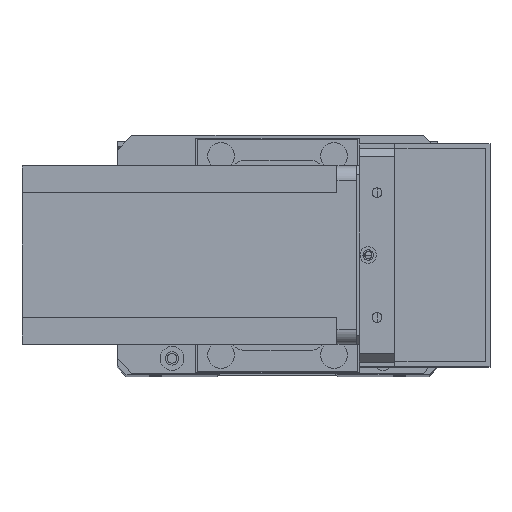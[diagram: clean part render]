
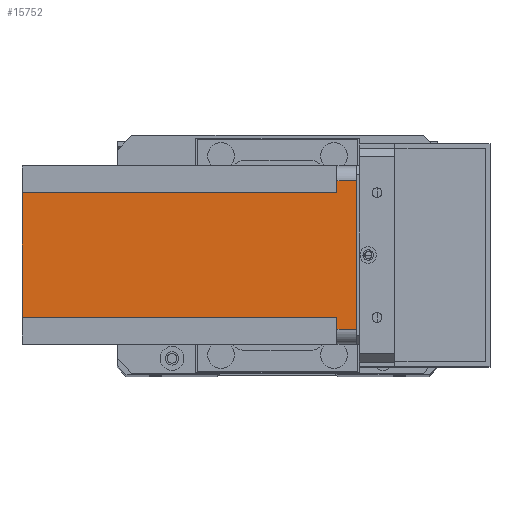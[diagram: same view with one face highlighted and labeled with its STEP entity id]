
A CAD part, top view. The second image highlights one B-rep face of the part: STEP entity #15752.
In plain terms, the highlighted planar face has unit normal (0, 0, 1) as drawn and (1, 0, 0) by its records, which use the part's own axes.
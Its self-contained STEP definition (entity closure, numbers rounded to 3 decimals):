
#160 = VERTEX_POINT ( 'NONE', #8629 ) ;
#359 = CARTESIAN_POINT ( 'NONE',  ( 60., 51., -112.5 ) ) ;
#1009 = CARTESIAN_POINT ( 'NONE',  ( 60., 55., -112.5 ) ) ;
#1536 = ORIENTED_EDGE ( 'NONE', *, *, #24840, .F. ) ;
#2278 = VERTEX_POINT ( 'NONE', #7807 ) ;
#2314 = ORIENTED_EDGE ( 'NONE', *, *, #23028, .F. ) ;
#2749 = DIRECTION ( 'NONE',  ( 0., 0., 1. ) ) ;
#2844 = LINE ( 'NONE', #24223, #7992 ) ;
#3682 = EDGE_CURVE ( 'NONE', #27387, #7120, #2844, .T. ) ;
#5480 = EDGE_CURVE ( 'NONE', #19763, #8383, #15772, .T. ) ;
#5609 = CARTESIAN_POINT ( 'NONE',  ( 60., 60., -6.5 ) ) ;
#6139 = CARTESIAN_POINT ( 'NONE',  ( 60., 0., -112.5 ) ) ;
#6222 = VECTOR ( 'NONE', #20552, 1000. ) ;
#6924 = FACE_OUTER_BOUND ( 'NONE', #27547, .T. ) ;
#7012 = CARTESIAN_POINT ( 'NONE',  ( 60., 5., -6.5 ) ) ;
#7120 = VERTEX_POINT ( 'NONE', #359 ) ;
#7331 = CARTESIAN_POINT ( 'NONE',  ( 60., 5., -112.5 ) ) ;
#7807 = CARTESIAN_POINT ( 'NONE',  ( 60., 55., -6.5 ) ) ;
#7992 = VECTOR ( 'NONE', #26439, 1000. ) ;
#8016 = ORIENTED_EDGE ( 'NONE', *, *, #19778, .T. ) ;
#8383 = VERTEX_POINT ( 'NONE', #7012 ) ;
#8629 = CARTESIAN_POINT ( 'NONE',  ( 60., 55., 0. ) ) ;
#9700 = VECTOR ( 'NONE', #2749, 1000. ) ;
#9708 = DIRECTION ( 'NONE',  ( 0., 0., 1. ) ) ;
#9872 = EDGE_CURVE ( 'NONE', #19763, #160, #26752, .T. ) ;
#9888 = VECTOR ( 'NONE', #16187, 1000. ) ;
#10217 = EDGE_CURVE ( 'NONE', #2278, #160, #17834, .T. ) ;
#10543 = VECTOR ( 'NONE', #18919, 1000. ) ;
#10884 = DIRECTION ( 'NONE',  ( 0., 1., 0. ) ) ;
#11147 = VERTEX_POINT ( 'NONE', #15663 ) ;
#11196 = CARTESIAN_POINT ( 'NONE',  ( 60., 9., -6.5 ) ) ;
#11236 = ORIENTED_EDGE ( 'NONE', *, *, #3682, .F. ) ;
#11256 = VECTOR ( 'NONE', #9708, 1000. ) ;
#11474 = CARTESIAN_POINT ( 'NONE',  ( 60., 9., -112.5 ) ) ;
#12661 = AXIS2_PLACEMENT_3D ( 'NONE', #13944, #22674, #18399 ) ;
#12675 = CARTESIAN_POINT ( 'NONE',  ( 60., 5., 0. ) ) ;
#13277 = LINE ( 'NONE', #6139, #24959 ) ;
#13944 = CARTESIAN_POINT ( 'NONE',  ( 60., 0., -112.5 ) ) ;
#14375 = VECTOR ( 'NONE', #10884, 1000. ) ;
#15663 = CARTESIAN_POINT ( 'NONE',  ( 60., 9., -112.5 ) ) ;
#15741 = LINE ( 'NONE', #5609, #10543 ) ;
#15752 = ADVANCED_FACE ( 'NONE', ( #6924 ), #16159, .T. ) ;
#15772 = LINE ( 'NONE', #7331, #9888 ) ;
#16159 = PLANE ( 'NONE',  #12661 ) ;
#16187 = DIRECTION ( 'NONE',  ( 0., 0., -1. ) ) ;
#17158 = ORIENTED_EDGE ( 'NONE', *, *, #9872, .F. ) ;
#17225 = DIRECTION ( 'NONE',  ( 0., 1., 0. ) ) ;
#17659 = ORIENTED_EDGE ( 'NONE', *, *, #10217, .T. ) ;
#17834 = LINE ( 'NONE', #1009, #11256 ) ;
#18339 = CARTESIAN_POINT ( 'NONE',  ( 60., 0., -6.5 ) ) ;
#18399 = DIRECTION ( 'NONE',  ( 0., 1., 0. ) ) ;
#18919 = DIRECTION ( 'NONE',  ( 0., -1., 0. ) ) ;
#19017 = ORIENTED_EDGE ( 'NONE', *, *, #5480, .T. ) ;
#19066 = EDGE_CURVE ( 'NONE', #2278, #27387, #15741, .T. ) ;
#19663 = CARTESIAN_POINT ( 'NONE',  ( 60., 0., 0. ) ) ;
#19763 = VERTEX_POINT ( 'NONE', #12675 ) ;
#19778 = EDGE_CURVE ( 'NONE', #11147, #7120, #13277, .T. ) ;
#20552 = DIRECTION ( 'NONE',  ( 0., -1., 0. ) ) ;
#20708 = CARTESIAN_POINT ( 'NONE',  ( 60., 51., -6.5 ) ) ;
#21417 = LINE ( 'NONE', #11474, #9700 ) ;
#22674 = DIRECTION ( 'NONE',  ( 1., 0., 0. ) ) ;
#22906 = VERTEX_POINT ( 'NONE', #11196 ) ;
#23028 = EDGE_CURVE ( 'NONE', #11147, #22906, #21417, .T. ) ;
#23752 = LINE ( 'NONE', #18339, #6222 ) ;
#24223 = CARTESIAN_POINT ( 'NONE',  ( 60., 51., -112.5 ) ) ;
#24840 = EDGE_CURVE ( 'NONE', #22906, #8383, #23752, .T. ) ;
#24959 = VECTOR ( 'NONE', #17225, 1000. ) ;
#26439 = DIRECTION ( 'NONE',  ( 0., 0., -1. ) ) ;
#26717 = ORIENTED_EDGE ( 'NONE', *, *, #19066, .F. ) ;
#26752 = LINE ( 'NONE', #19663, #14375 ) ;
#27387 = VERTEX_POINT ( 'NONE', #20708 ) ;
#27547 = EDGE_LOOP ( 'NONE', ( #26717, #17659, #17158, #19017, #1536, #2314, #8016, #11236 ) ) ;
